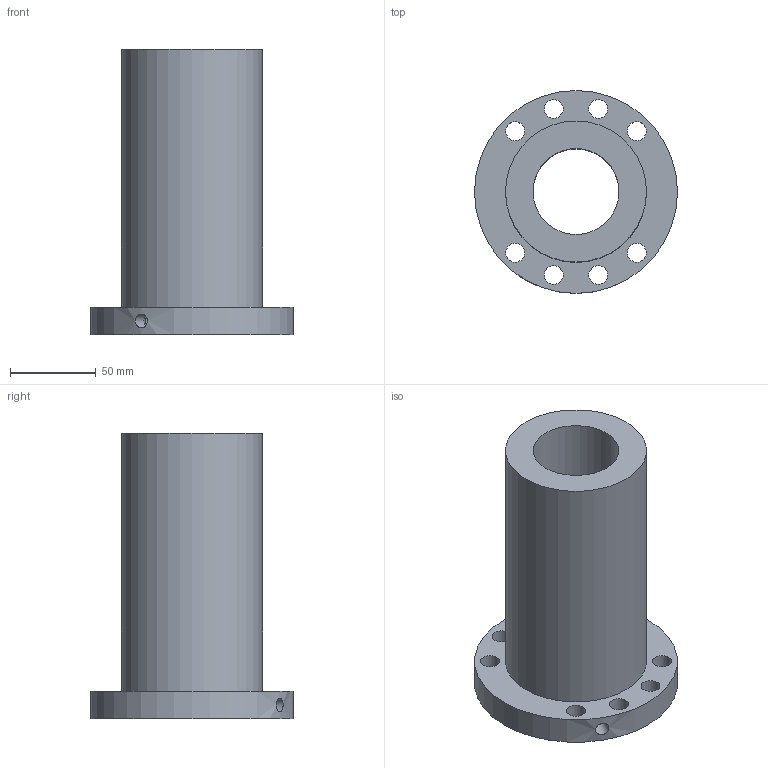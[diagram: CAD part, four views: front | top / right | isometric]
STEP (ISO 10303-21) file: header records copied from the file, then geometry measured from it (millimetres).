
FILE_DESCRIPTION(/* description */ (''),/* implementation_level */ '2;1');
FILE_NAME(/* name */ '50-10K5_635',/* time_stamp */ '2007-10-15T12:53:55+08:00',/* author */ (''),/* organization */ (''),/* preprocessor_version */ 'ST-DEVELOPER v11',/* originating_system */ 'UGS - NX 5.0',/* authorisation */ '');
FILE_SCHEMA (('CONFIG_CONTROL_DESIGN'));
Length unit declared in the file: millimetre
Products named in the file (1): 50-10K5_635
Bounding box: 118 x 118 x 166 mm (x, y, z)
Volume: 627842 mm3; surface area: 92142.9 mm2
Topology: 1 solids, 1 shells, 17 faces, 40 edges, 27 vertices
Faces by surface type: cylinder 13, plane 4
Full cylindrical faces by diameter (mm): 6 x1, 8 x1, 11 x8, 50 x1, 82 x1, 118 x1
Entity records: 668 total; most frequent: CARTESIAN_POINT 184, DIRECTION 84, FACE_BOUND 52, EDGE_LOOP 52, ORIENTED_EDGE 52, AXIS2_PLACEMENT_3D 42, VERTEX_POINT 26, EDGE_CURVE 26
